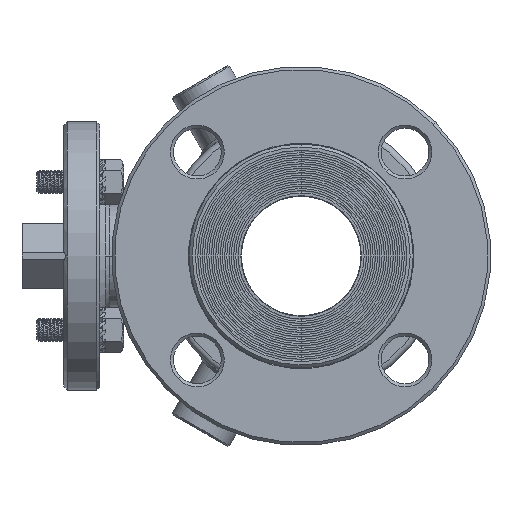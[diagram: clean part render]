
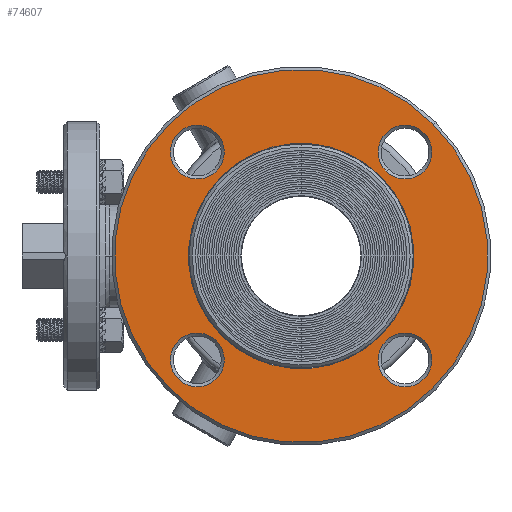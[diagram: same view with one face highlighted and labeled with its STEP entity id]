
A CAD part, left-side view. The second image highlights one B-rep face of the part: STEP entity #74607.
In plain terms, the highlighted planar face has unit normal (-1, 0, 0).
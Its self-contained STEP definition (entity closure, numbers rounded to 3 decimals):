
#1945=CARTESIAN_POINT('',(-68.,0.,0.));
#1946=DIRECTION('',(1.,0.,0.));
#1947=DIRECTION('',(0.,0.707,-0.707));
#1948=AXIS2_PLACEMENT_3D('',#1945,#1946,#1947);
#1991=CARTESIAN_POINT('',(-68.,0.,0.));
#1992=DIRECTION('',(-1.,0.,0.));
#1993=DIRECTION('',(0.,0.707,-0.707));
#1994=AXIS2_PLACEMENT_3D('',#1991,#1992,#1993);
#2006=CARTESIAN_POINT('',(-68.,0.,0.));
#2007=DIRECTION('',(-1.,0.,0.));
#2008=DIRECTION('',(0.,0.707,-0.707));
#2009=AXIS2_PLACEMENT_3D('',#2006,#2007,#2008);
#2036=CARTESIAN_POINT('',(-68.,0.,0.));
#2037=DIRECTION('',(1.,0.,0.));
#2038=DIRECTION('',(0.,0.707,-0.707));
#2039=AXIS2_PLACEMENT_3D('',#2036,#2037,#2038);
#66805=CARTESIAN_POINT('',(-68.,34.79,-34.79));
#66806=DIRECTION('',(1.,0.,0.));
#66807=DIRECTION('',(0.,0.707,-0.707));
#66808=AXIS2_PLACEMENT_3D('',#66805,#66806,#66807);
#66835=CARTESIAN_POINT('',(-68.,34.79,-34.79));
#66836=DIRECTION('',(1.,0.,0.));
#66837=DIRECTION('',(0.,-0.707,0.707));
#66838=AXIS2_PLACEMENT_3D('',#66835,#66836,#66837);
#66911=CARTESIAN_POINT('',(-68.,34.79,34.79));
#66912=DIRECTION('',(1.,0.,0.));
#66913=DIRECTION('',(0.,0.707,-0.707));
#66914=AXIS2_PLACEMENT_3D('',#66911,#66912,#66913);
#66927=CARTESIAN_POINT('',(-68.,34.79,34.79));
#66928=DIRECTION('',(1.,0.,0.));
#66929=DIRECTION('',(0.,-0.707,0.707));
#66930=AXIS2_PLACEMENT_3D('',#66927,#66928,#66929);
#67017=CARTESIAN_POINT('',(-68.,-34.79,34.79));
#67018=DIRECTION('',(1.,0.,0.));
#67019=DIRECTION('',(0.,0.707,-0.707));
#67020=AXIS2_PLACEMENT_3D('',#67017,#67018,#67019);
#67047=CARTESIAN_POINT('',(-68.,-34.79,34.79));
#67048=DIRECTION('',(1.,0.,0.));
#67049=DIRECTION('',(0.,-0.707,0.707));
#67050=AXIS2_PLACEMENT_3D('',#67047,#67048,#67049);
#67123=CARTESIAN_POINT('',(-68.,-34.79,-34.79));
#67124=DIRECTION('',(1.,0.,0.));
#67125=DIRECTION('',(0.,0.707,-0.707));
#67126=AXIS2_PLACEMENT_3D('',#67123,#67124,#67125);
#67153=CARTESIAN_POINT('',(-68.,-34.79,-34.79));
#67154=DIRECTION('',(1.,0.,0.));
#67155=DIRECTION('',(0.,-0.707,0.707));
#67156=AXIS2_PLACEMENT_3D('',#67153,#67154,#67155);
#70181=CARTESIAN_POINT('',(-68.,26.693,-26.693));
#70182=CARTESIAN_POINT('',(-68.,-26.693,26.693));
#70183=VERTEX_POINT('',#70181);
#70184=VERTEX_POINT('',#70182);
#70185=CARTESIAN_POINT('',(-68.,44.194,-44.194));
#70186=CARTESIAN_POINT('',(-68.,-44.194,44.194));
#70187=VERTEX_POINT('',#70185);
#70188=VERTEX_POINT('',#70186);
#70241=CARTESIAN_POINT('',(-68.,-41.154,41.154));
#70242=CARTESIAN_POINT('',(-68.,-28.426,28.426));
#70243=VERTEX_POINT('',#70241);
#70244=VERTEX_POINT('',#70242);
#70249=CARTESIAN_POINT('',(-68.,-41.154,-28.426));
#70250=CARTESIAN_POINT('',(-68.,-28.426,-41.154));
#70251=VERTEX_POINT('',#70249);
#70252=VERTEX_POINT('',#70250);
#70257=CARTESIAN_POINT('',(-68.,28.426,-28.426));
#70258=CARTESIAN_POINT('',(-68.,41.154,-41.154));
#70259=VERTEX_POINT('',#70257);
#70260=VERTEX_POINT('',#70258);
#70265=CARTESIAN_POINT('',(-68.,41.154,28.426));
#70266=CARTESIAN_POINT('',(-68.,28.426,41.154));
#70267=VERTEX_POINT('',#70265);
#70268=VERTEX_POINT('',#70266);
#74568=CARTESIAN_POINT('',(-68.,0.,0.));
#74569=DIRECTION('',(-1.,0.,0.));
#74570=DIRECTION('',(0.,0.707,-0.707));
#74571=AXIS2_PLACEMENT_3D('',#74568,#74569,#74570);
#74572=PLANE('',#74571);
#74574=ORIENTED_EDGE('',*,*,#74573,.F.);
#74576=ORIENTED_EDGE('',*,*,#74575,.T.);
#74577=EDGE_LOOP('',(#74574,#74576));
#74578=FACE_OUTER_BOUND('',#74577,.F.);
#74579=ORIENTED_EDGE('',*,*,#74519,.F.);
#74580=ORIENTED_EDGE('',*,*,#74562,.T.);
#74581=EDGE_LOOP('',(#74579,#74580));
#74582=FACE_BOUND('',#74581,.F.);
#74584=ORIENTED_EDGE('',*,*,#74583,.F.);
#74586=ORIENTED_EDGE('',*,*,#74585,.F.);
#74587=EDGE_LOOP('',(#74584,#74586));
#74588=FACE_BOUND('',#74587,.F.);
#74590=ORIENTED_EDGE('',*,*,#74589,.F.);
#74592=ORIENTED_EDGE('',*,*,#74591,.F.);
#74593=EDGE_LOOP('',(#74590,#74592));
#74594=FACE_BOUND('',#74593,.F.);
#74596=ORIENTED_EDGE('',*,*,#74595,.F.);
#74598=ORIENTED_EDGE('',*,*,#74597,.F.);
#74599=EDGE_LOOP('',(#74596,#74598));
#74600=FACE_BOUND('',#74599,.F.);
#74602=ORIENTED_EDGE('',*,*,#74601,.F.);
#74604=ORIENTED_EDGE('',*,*,#74603,.F.);
#74605=EDGE_LOOP('',(#74602,#74604));
#74606=FACE_BOUND('',#74605,.F.);
#74607=ADVANCED_FACE('',(#74578,#74582,#74588,#74594,#74600,#74606),#74572,.T.);
#1949=CIRCLE('',#1948,37.75);
#1995=CIRCLE('',#1994,37.75);
#2010=CIRCLE('',#2009,62.5);
#2040=CIRCLE('',#2039,62.5);
#66809=CIRCLE('',#66808,9.);
#66839=CIRCLE('',#66838,9.);
#66915=CIRCLE('',#66914,9.);
#66931=CIRCLE('',#66930,9.);
#67021=CIRCLE('',#67020,9.);
#67051=CIRCLE('',#67050,9.);
#67127=CIRCLE('',#67126,9.);
#67157=CIRCLE('',#67156,9.);
#74519=EDGE_CURVE('',#70183,#70184,#1949,.T.);
#74562=EDGE_CURVE('',#70183,#70184,#1995,.T.);
#74573=EDGE_CURVE('',#70187,#70188,#2010,.T.);
#74575=EDGE_CURVE('',#70187,#70188,#2040,.T.);
#74583=EDGE_CURVE('',#70260,#70259,#66809,.T.);
#74585=EDGE_CURVE('',#70259,#70260,#66839,.T.);
#74589=EDGE_CURVE('',#70267,#70268,#66915,.T.);
#74591=EDGE_CURVE('',#70268,#70267,#66931,.T.);
#74595=EDGE_CURVE('',#70244,#70243,#67021,.T.);
#74597=EDGE_CURVE('',#70243,#70244,#67051,.T.);
#74601=EDGE_CURVE('',#70252,#70251,#67127,.T.);
#74603=EDGE_CURVE('',#70251,#70252,#67157,.T.);
